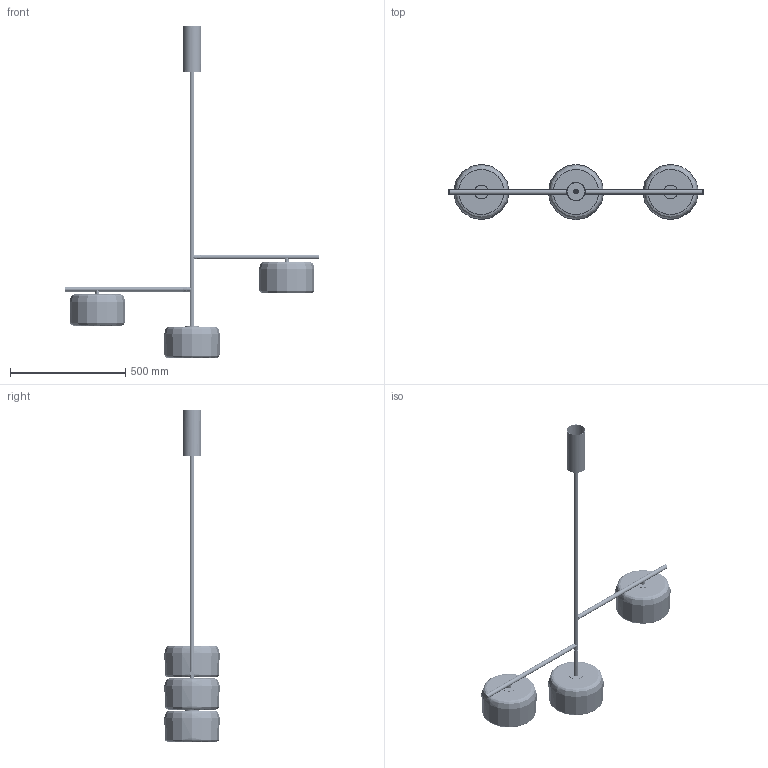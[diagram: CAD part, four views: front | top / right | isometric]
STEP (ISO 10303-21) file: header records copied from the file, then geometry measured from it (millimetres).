
FILE_DESCRIPTION (( 'STEP AP214' ), '1' );
FILE_NAME ('ISES_C1364_3.STEP', '2026-09-03T08:28:13', ( '' ), ( '' ), 'SwSTEP 2.0', 'SolidWorks 2023', '' );
FILE_SCHEMA (( 'AUTOMOTIVE_DESIGN' ));
Length unit declared in the file: millimetre
Products named in the file (1): ISES_C1364_3
Bounding box: 1100 x 239.46 x 1437.7 mm (x, y, z)
Surface area: 1788569.6 mm2 (no closed solid volume)
Topology: 0 solids, 403 shells, 2429 faces, 5512 edges, 3517 vertices
Faces by surface type: bspline 2429
Entity records: 109344 total; most frequent: CARTESIAN_POINT 75044, ORIENTED_EDGE 10232, EDGE_CURVE 5506, B_SPLINE_CURVE_WITH_KNOTS 3713, VERTEX_POINT 3517, EDGE_LOOP 2505, FACE_OUTER_BOUND 2429, ADVANCED_FACE 2429
